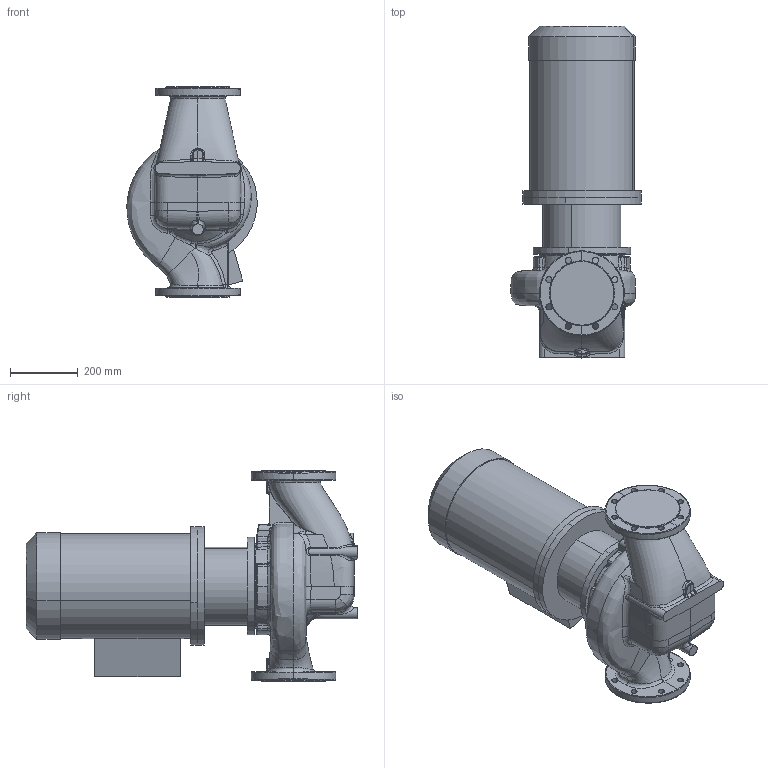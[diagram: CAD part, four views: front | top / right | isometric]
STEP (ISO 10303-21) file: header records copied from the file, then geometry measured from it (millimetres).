
FILE_DESCRIPTION (( 'STEP AP214' ), '1' );
FILE_NAME ('KRL 125-200-4-11.STEP', '2026-04-03T06:04:51', ( '' ), ( '' ), 'SwSTEP 2.0', 'SolidWorks 2016', '' );
FILE_SCHEMA (( 'AUTOMOTIVE_DESIGN' ));
Length unit declared in the file: millimetre
Products named in the file (1): KRL 125-200-4-11
Bounding box: 383.88 x 978.3 x 620 mm (x, y, z)
Volume: 80154574.4 mm3; surface area: 2052546.6 mm2
Topology: 4 solids, 4 shells, 635 faces, 1534 edges, 912 vertices
Faces by surface type: bspline 312, cylinder 163, plane 92, torus 29, cone 24, sphere 15
Entity records: 63911 total; most frequent: CARTESIAN_POINT 44869, ORIENTED_EDGE 3042, DIRECTION 1803, EDGE_CURVE 1521, VERTEX_POINT 912, AXIS2_PLACEMENT_3D 766, EDGE_LOOP 685, UNCERTAINTY_MEASURE_WITH_UNIT 641
